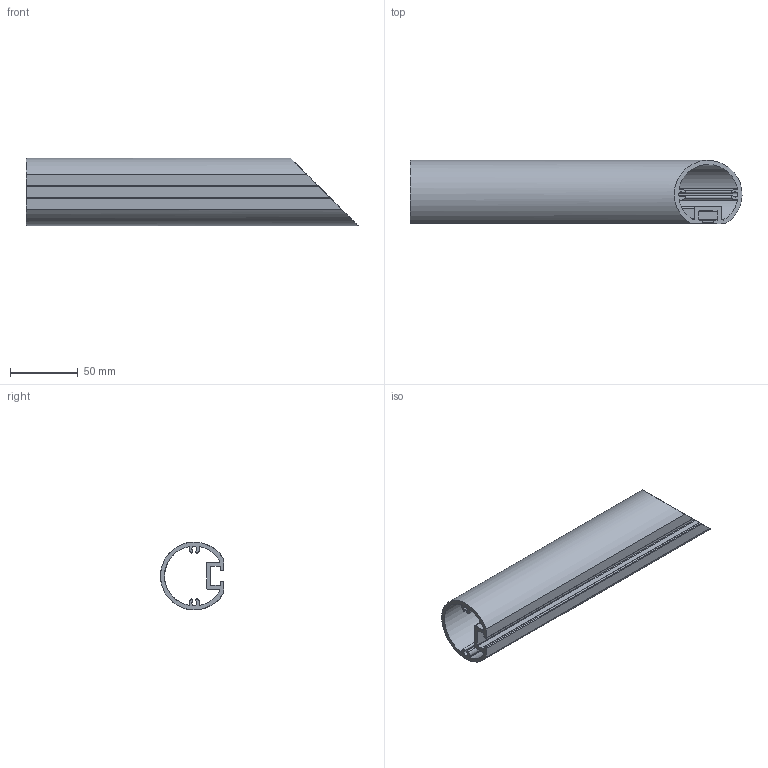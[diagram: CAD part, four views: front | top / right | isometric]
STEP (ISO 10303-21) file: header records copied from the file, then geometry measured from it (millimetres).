
FILE_DESCRIPTION(/* description */ (''),/* implementation_level */ '2;1');
FILE_NAME(/* name */ 'Pos136-HANDREGEL PROFIEL 50X47-Aluminium-1st',/* time_stamp */ '2024-08-06T11:49:42+02:00',/* author */ (''),/* organization */ (''),/* preprocessor_version */ 'ST-DEVELOPER v16.5',/* originating_system */ 'HiCAD 2024 2901.2 Build 361',/* authorisation */ '');
FILE_SCHEMA (('AUTOMOTIVE_DESIGN { 1 0 10303 214 1 1 1 1 }'));
Length unit declared in the file: millimetre
Products named in the file (1): Pos136-HANDREGEL PROFIEL 50X47-Aluminium-1st
Bounding box: 244.97 x 46.5 x 50 mm (x, y, z)
Volume: 121057.4 mm3; surface area: 83126.1 mm2
Topology: 1 solids, 1 shells, 44 faces, 126 edges, 84 vertices
Faces by surface type: cylinder 30, plane 14
Entity records: 2752 total; most frequent: DIRECTION 274, CARTESIAN_POINT 254, PRESENTATION_STYLE_ASSIGNMENT 253, COLOUR_RGB 253, DRAUGHTING_PRE_DEFINED_CURVE_FONT 252, CURVE_STYLE 252, OVER_RIDING_STYLED_ITEM 252, ORIENTED_EDGE 252
